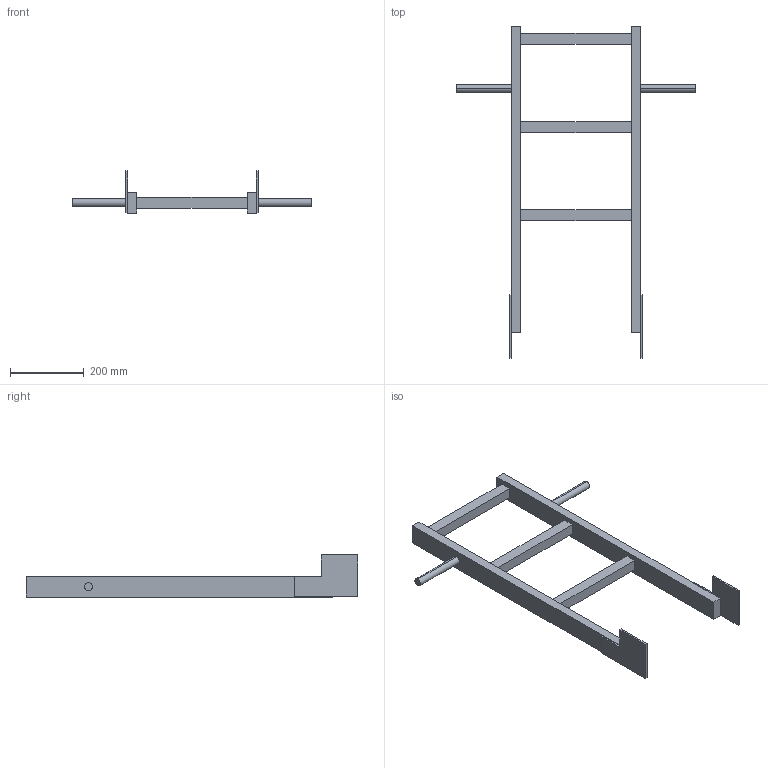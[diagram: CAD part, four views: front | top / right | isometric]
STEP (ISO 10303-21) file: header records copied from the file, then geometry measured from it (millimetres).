
FILE_DESCRIPTION((''),'2;1');
FILE_NAME('52330571','2024-12-18T08:05:44',('wep'),('HUBER SE'),'CREO PARAMETRIC BY PTC INC, 2022162','CREO PARAMETRIC BY PTC INC, 2022162','');
FILE_SCHEMA(('AUTOMOTIVE_DESIGN { 1 0 10303 214 1 1 1 1 }'));
Length unit declared in the file: millimetre
Products named in the file (1): 52330571
Bounding box: 650 x 903 x 115 mm (x, y, z)
Volume: 3446538.2 mm3; surface area: 446154.8 mm2
Topology: 1 solids, 1 shells, 46 faces, 116 edges, 76 vertices
Faces by surface type: plane 42, cylinder 4
Entity records: 1923 total; most frequent: CARTESIAN_POINT 240, ORIENTED_EDGE 232, DIRECTION 216, EDGE_CURVE 116, VECTOR 108, LINE 108, COLOUR_RGB 106, PROPERTY_DEFINITION 77
